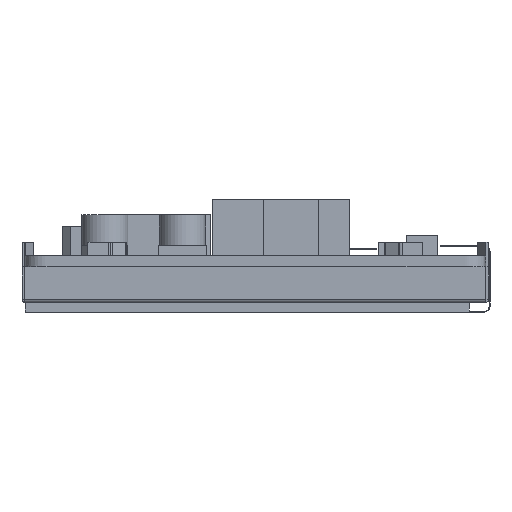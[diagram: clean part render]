
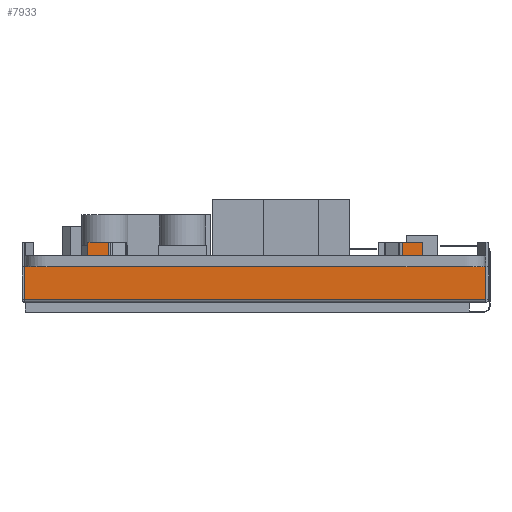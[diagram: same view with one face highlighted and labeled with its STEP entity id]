
A CAD part, left-side view. The second image highlights one B-rep face of the part: STEP entity #7933.
In plain terms, the highlighted planar face has unit normal (-1, 0, 0).
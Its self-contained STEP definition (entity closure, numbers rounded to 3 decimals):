
#3397=PLANE('',#56589);
#5639=FACE_OUTER_BOUND('',#10856,.T.);
#7933=ADVANCED_FACE('',(#5639),#3397,.F.);
#10856=EDGE_LOOP('',(#23131,#23132,#23133,#23134,#23135,#23136,#23137,#23138,
#23139,#23140,#23141,#23142,#23143,#23144,#23145,#23146));
#23131=ORIENTED_EDGE('',*,*,#34688,.T.);
#23132=ORIENTED_EDGE('',*,*,#34689,.F.);
#23133=ORIENTED_EDGE('',*,*,#34690,.F.);
#23134=ORIENTED_EDGE('',*,*,#34691,.T.);
#23135=ORIENTED_EDGE('',*,*,#34692,.T.);
#23136=ORIENTED_EDGE('',*,*,#34693,.T.);
#23137=ORIENTED_EDGE('',*,*,#34686,.T.);
#23138=ORIENTED_EDGE('',*,*,#34694,.F.);
#23139=ORIENTED_EDGE('',*,*,#34695,.T.);
#23140=ORIENTED_EDGE('',*,*,#34696,.F.);
#23141=ORIENTED_EDGE('',*,*,#34697,.F.);
#23142=ORIENTED_EDGE('',*,*,#34698,.T.);
#23143=ORIENTED_EDGE('',*,*,#34680,.T.);
#23144=ORIENTED_EDGE('',*,*,#34699,.F.);
#23145=ORIENTED_EDGE('',*,*,#34700,.F.);
#23146=ORIENTED_EDGE('',*,*,#34701,.T.);
#28268=VERTEX_POINT('',#83435);
#28269=VERTEX_POINT('',#83436);
#28274=VERTEX_POINT('',#83447);
#28275=VERTEX_POINT('',#83449);
#28276=VERTEX_POINT('',#83453);
#28277=VERTEX_POINT('',#83454);
#28278=VERTEX_POINT('',#83456);
#28279=VERTEX_POINT('',#83458);
#28280=VERTEX_POINT('',#83460);
#28281=VERTEX_POINT('',#83462);
#28282=VERTEX_POINT('',#83465);
#28283=VERTEX_POINT('',#83467);
#28284=VERTEX_POINT('',#83469);
#28285=VERTEX_POINT('',#83471);
#28286=VERTEX_POINT('',#83474);
#28287=VERTEX_POINT('',#83476);
#34680=EDGE_CURVE('',#28268,#28269,#44412,.T.);
#34686=EDGE_CURVE('',#28275,#28274,#44418,.T.);
#34688=EDGE_CURVE('',#28276,#28277,#44420,.T.);
#34689=EDGE_CURVE('',#28278,#28277,#44421,.T.);
#34690=EDGE_CURVE('',#28279,#28278,#44422,.T.);
#34691=EDGE_CURVE('',#28279,#28280,#44423,.T.);
#34692=EDGE_CURVE('',#28280,#28281,#44424,.T.);
#34693=EDGE_CURVE('',#28281,#28275,#44425,.T.);
#34694=EDGE_CURVE('',#28282,#28274,#44426,.T.);
#34695=EDGE_CURVE('',#28282,#28283,#44427,.T.);
#34696=EDGE_CURVE('',#28284,#28283,#44428,.T.);
#34697=EDGE_CURVE('',#28285,#28284,#44429,.T.);
#34698=EDGE_CURVE('',#28285,#28268,#44430,.T.);
#34699=EDGE_CURVE('',#28286,#28269,#44431,.T.);
#34700=EDGE_CURVE('',#28287,#28286,#44432,.T.);
#34701=EDGE_CURVE('',#28287,#28276,#44433,.T.);
#44412=LINE('',#83434,#50818);
#44418=LINE('',#83448,#50824);
#44420=LINE('',#83452,#50826);
#44421=LINE('',#83455,#50827);
#44422=LINE('',#83457,#50828);
#44423=LINE('',#83459,#50829);
#44424=LINE('',#83461,#50830);
#44425=LINE('',#83463,#50831);
#44426=LINE('',#83464,#50832);
#44427=LINE('',#83466,#50833);
#44428=LINE('',#83468,#50834);
#44429=LINE('',#83470,#50835);
#44430=LINE('',#83472,#50836);
#44431=LINE('',#83473,#50837);
#44432=LINE('',#83475,#50838);
#44433=LINE('',#83477,#50839);
#50818=VECTOR('',#68474,1.);
#50824=VECTOR('',#68482,1.);
#50826=VECTOR('',#68486,1.);
#50827=VECTOR('',#68487,1.);
#50828=VECTOR('',#68488,1.);
#50829=VECTOR('',#68489,1.);
#50830=VECTOR('',#68490,1.);
#50831=VECTOR('',#68491,1.);
#50832=VECTOR('',#68492,1.);
#50833=VECTOR('',#68493,1.);
#50834=VECTOR('',#68494,1.);
#50835=VECTOR('',#68495,1.);
#50836=VECTOR('',#68496,1.);
#50837=VECTOR('',#68497,1.);
#50838=VECTOR('',#68498,1.);
#50839=VECTOR('',#68499,1.);
#56589=AXIS2_PLACEMENT_3D('',#83478,#68500,#68501);
#68474=DIRECTION('',(0.,1.,0.));
#68482=DIRECTION('',(0.,1.,0.));
#68486=DIRECTION('',(0.,1.,0.));
#68487=DIRECTION('',(0.,0.,-1.));
#68488=DIRECTION('',(0.,-1.,0.));
#68489=DIRECTION('',(0.,0.,-1.));
#68490=DIRECTION('',(0.,1.,0.));
#68491=DIRECTION('',(0.,0.,-1.));
#68492=DIRECTION('',(0.,0.,-1.));
#68493=DIRECTION('',(0.,-1.,0.));
#68494=DIRECTION('',(0.,0.,-1.));
#68495=DIRECTION('',(0.,-1.,0.));
#68496=DIRECTION('',(0.,0.,-1.));
#68497=DIRECTION('',(0.,0.,1.));
#68498=DIRECTION('',(0.,1.,0.));
#68499=DIRECTION('',(0.,0.,1.));
#68500=DIRECTION('',(1.,0.,0.));
#68501=DIRECTION('',(0.,-1.,0.));
#83434=CARTESIAN_POINT('',(196.712,-14.395,-1.6));
#83435=CARTESIAN_POINT('',(196.712,43.765,-1.6));
#83436=CARTESIAN_POINT('',(196.712,53.005,-1.6));
#83447=CARTESIAN_POINT('',(196.712,40.765,-1.6));
#83448=CARTESIAN_POINT('',(196.712,-14.395,-1.6));
#83449=CARTESIAN_POINT('',(196.712,-2.155,-1.6));
#83452=CARTESIAN_POINT('',(196.712,-14.395,-1.6));
#83453=CARTESIAN_POINT('',(196.712,-14.395,-1.6));
#83454=CARTESIAN_POINT('',(196.712,-5.155,-1.6));
#83455=CARTESIAN_POINT('',(196.712,-5.155,0.));
#83456=CARTESIAN_POINT('',(196.712,-5.155,2.));
#83457=CARTESIAN_POINT('',(196.712,-2.19,2.));
#83458=CARTESIAN_POINT('',(196.712,-2.19,2.));
#83459=CARTESIAN_POINT('',(196.712,-2.19,2.));
#83460=CARTESIAN_POINT('',(196.712,-2.19,0.));
#83461=CARTESIAN_POINT('',(196.712,-5.155,0.));
#83462=CARTESIAN_POINT('',(196.712,-2.155,0.));
#83463=CARTESIAN_POINT('',(196.712,-2.155,0.));
#83464=CARTESIAN_POINT('',(196.712,40.765,0.));
#83465=CARTESIAN_POINT('',(196.712,40.765,0.));
#83466=CARTESIAN_POINT('',(196.712,43.765,0.));
#83467=CARTESIAN_POINT('',(196.712,40.754,0.));
#83468=CARTESIAN_POINT('',(196.712,40.754,2.));
#83469=CARTESIAN_POINT('',(196.712,40.754,2.));
#83470=CARTESIAN_POINT('',(196.712,43.765,2.));
#83471=CARTESIAN_POINT('',(196.712,43.765,2.));
#83472=CARTESIAN_POINT('',(196.712,43.765,0.));
#83473=CARTESIAN_POINT('',(196.712,53.005,-6.4));
#83474=CARTESIAN_POINT('',(196.712,53.005,-6.4));
#83475=CARTESIAN_POINT('',(196.712,-14.395,-6.4));
#83476=CARTESIAN_POINT('',(196.712,-14.395,-6.4));
#83477=CARTESIAN_POINT('',(196.712,-14.395,-6.4));
#83478=CARTESIAN_POINT('',(196.712,-14.395,-6.4));
